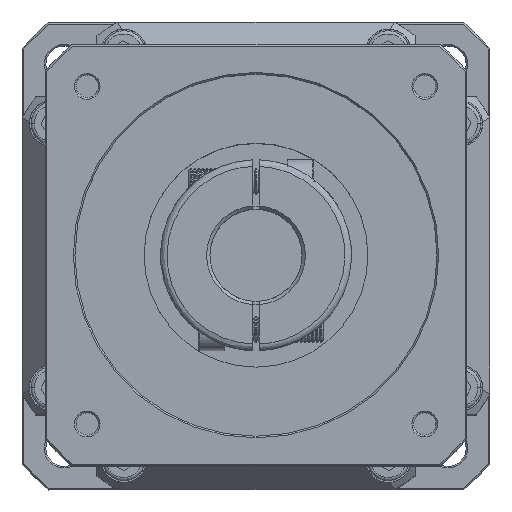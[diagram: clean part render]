
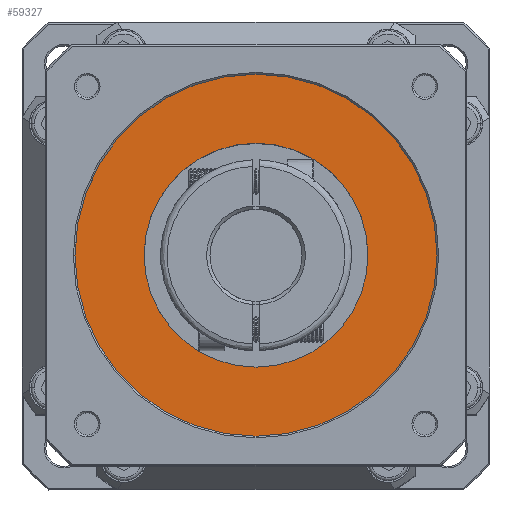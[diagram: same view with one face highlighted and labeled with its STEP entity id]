
A CAD part, top view. The second image highlights one B-rep face of the part: STEP entity #59327.
In plain terms, the highlighted planar face has unit normal (0, 0, -1).
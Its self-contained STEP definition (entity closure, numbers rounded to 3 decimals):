
#3528 = VERTEX_POINT ( 'NONE', #10956 ) ;
#4186 = CARTESIAN_POINT ( 'NONE',  ( 34., 0., 182. ) ) ;
#4341 = EDGE_LOOP ( 'NONE', ( #79556, #47317 ) ) ;
#9702 = CARTESIAN_POINT ( 'NONE',  ( 0., 0., 182. ) ) ;
#10614 = VERTEX_POINT ( 'NONE', #21047 ) ;
#10956 = CARTESIAN_POINT ( 'NONE',  ( -55., 0., 182. ) ) ;
#14388 = AXIS2_PLACEMENT_3D ( 'NONE', #9702, #58398, #16735 ) ;
#15430 = CARTESIAN_POINT ( 'NONE',  ( 0., 0., 182. ) ) ;
#16735 = DIRECTION ( 'NONE',  ( -1., 0., 0. ) ) ;
#20790 = CARTESIAN_POINT ( 'NONE',  ( -55.66, -55.66, 182. ) ) ;
#21047 = CARTESIAN_POINT ( 'NONE',  ( -34., 0., 182. ) ) ;
#21438 = AXIS2_PLACEMENT_3D ( 'NONE', #15430, #64161, #22375 ) ;
#22375 = DIRECTION ( 'NONE',  ( 1., 0., 0. ) ) ;
#23678 = EDGE_CURVE ( 'NONE', #81854, #10614, #86975, .T. ) ;
#24577 = ORIENTED_EDGE ( 'NONE', *, *, #69249, .T. ) ;
#27830 = DIRECTION ( 'NONE',  ( 1., 0., 0. ) ) ;
#28650 = VERTEX_POINT ( 'NONE', #51511 ) ;
#29086 = CARTESIAN_POINT ( 'NONE',  ( 0., 0., 182. ) ) ;
#36078 = DIRECTION ( 'NONE',  ( -1., 0., 0. ) ) ;
#36164 = DIRECTION ( 'NONE',  ( 0., 0., -1. ) ) ;
#47317 = ORIENTED_EDGE ( 'NONE', *, *, #23678, .T. ) ;
#47976 = CIRCLE ( 'NONE', #48974, 34. ) ;
#48974 = AXIS2_PLACEMENT_3D ( 'NONE', #29086, #77792, #36078 ) ;
#51511 = CARTESIAN_POINT ( 'NONE',  ( 55., 0., 182. ) ) ;
#54938 = EDGE_CURVE ( 'NONE', #28650, #3528, #71977, .T. ) ;
#58398 = DIRECTION ( 'NONE',  ( 0., 0., 1. ) ) ;
#59327 = ADVANCED_FACE ( 'NONE', ( #64385, #85133 ), #83303, .F. ) ;
#64161 = DIRECTION ( 'NONE',  ( 0., 0., -1. ) ) ;
#64385 = FACE_BOUND ( 'NONE', #4341, .T. ) ;
#68964 = AXIS2_PLACEMENT_3D ( 'NONE', #77867, #36164, #84922 ) ;
#69249 = EDGE_CURVE ( 'NONE', #3528, #28650, #71925, .T. ) ;
#69501 = DIRECTION ( 'NONE',  ( 0., 0., 1. ) ) ;
#71925 = CIRCLE ( 'NONE', #21438, 55. ) ;
#71977 = CIRCLE ( 'NONE', #68964, 55. ) ;
#73302 = EDGE_LOOP ( 'NONE', ( #79490, #24577 ) ) ;
#77792 = DIRECTION ( 'NONE',  ( 0., 0., 1. ) ) ;
#77867 = CARTESIAN_POINT ( 'NONE',  ( 0., 0., 182. ) ) ;
#79490 = ORIENTED_EDGE ( 'NONE', *, *, #54938, .T. ) ;
#79556 = ORIENTED_EDGE ( 'NONE', *, *, #80024, .T. ) ;
#80024 = EDGE_CURVE ( 'NONE', #10614, #81854, #47976, .T. ) ;
#81854 = VERTEX_POINT ( 'NONE', #4186 ) ;
#83303 = PLANE ( 'NONE',  #85031 ) ;
#84922 = DIRECTION ( 'NONE',  ( 1., 0., 0. ) ) ;
#85031 = AXIS2_PLACEMENT_3D ( 'NONE', #20790, #69501, #27830 ) ;
#85133 = FACE_OUTER_BOUND ( 'NONE', #73302, .T. ) ;
#86975 = CIRCLE ( 'NONE', #14388, 34. ) ;
